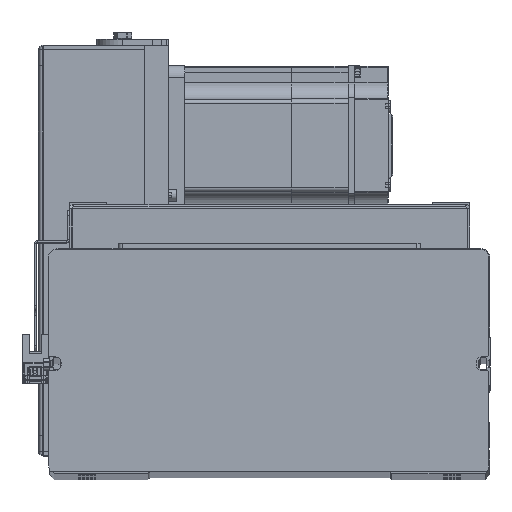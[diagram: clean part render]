
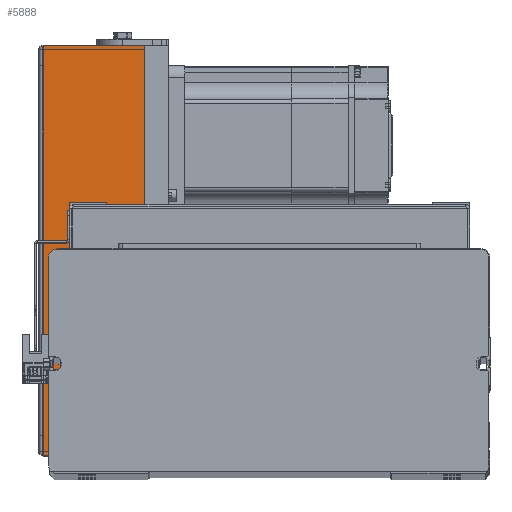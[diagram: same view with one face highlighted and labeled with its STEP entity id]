
A CAD part, top view. The second image highlights one B-rep face of the part: STEP entity #5888.
In plain terms, the highlighted planar face has unit normal (0, 0, 1) as drawn and (0, 1, 0) by its records, which use the part's own axes.
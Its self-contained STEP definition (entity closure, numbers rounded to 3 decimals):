
#2610 = LINE ( 'NONE', #44374, #12027 ) ;
#3320 = VERTEX_POINT ( 'NONE', #23256 ) ;
#3876 = VECTOR ( 'NONE', #34560, 1000. ) ;
#5888 = ADVANCED_FACE ( 'NONE', ( #15059 ), #46106, .F. ) ;
#7665 = VERTEX_POINT ( 'NONE', #37101 ) ;
#9697 = ORIENTED_EDGE ( 'NONE', *, *, #16262, .T. ) ;
#11574 = EDGE_LOOP ( 'NONE', ( #12174, #9697, #36072, #14818 ) ) ;
#12027 = VECTOR ( 'NONE', #17636, 1000. ) ;
#12174 = ORIENTED_EDGE ( 'NONE', *, *, #36710, .F. ) ;
#12524 = AXIS2_PLACEMENT_3D ( 'NONE', #26770, #42301, #22948 ) ;
#14818 = ORIENTED_EDGE ( 'NONE', *, *, #47043, .F. ) ;
#15059 = FACE_OUTER_BOUND ( 'NONE', #11574, .T. ) ;
#16262 = EDGE_CURVE ( 'NONE', #3320, #7665, #18548, .T. ) ;
#16343 = LINE ( 'NONE', #24733, #24419 ) ;
#17636 = DIRECTION ( 'NONE',  ( 0., 0., -1. ) ) ;
#18548 = LINE ( 'NONE', #18805, #3876 ) ;
#18805 = CARTESIAN_POINT ( 'NONE',  ( 102.5, 54., 62.7 ) ) ;
#22948 = DIRECTION ( 'NONE',  ( 0., 0., 1. ) ) ;
#23204 = CARTESIAN_POINT ( 'NONE',  ( -102.5, 54., 12. ) ) ;
#23256 = CARTESIAN_POINT ( 'NONE',  ( 102.5, 54., 62.7 ) ) ;
#23530 = CARTESIAN_POINT ( 'NONE',  ( -102.5, 54., 62.7 ) ) ;
#24419 = VECTOR ( 'NONE', #47380, 1000. ) ;
#24733 = CARTESIAN_POINT ( 'NONE',  ( 0., 54., 12. ) ) ;
#26770 = CARTESIAN_POINT ( 'NONE',  ( 0., 54., 63. ) ) ;
#26995 = EDGE_CURVE ( 'NONE', #7665, #44902, #16343, .T. ) ;
#33188 = CARTESIAN_POINT ( 'NONE',  ( -102.5, 54., 62.7 ) ) ;
#33540 = VERTEX_POINT ( 'NONE', #23530 ) ;
#34560 = DIRECTION ( 'NONE',  ( 0., 0., -1. ) ) ;
#36072 = ORIENTED_EDGE ( 'NONE', *, *, #26995, .T. ) ;
#36710 = EDGE_CURVE ( 'NONE', #3320, #33540, #45417, .T. ) ;
#37101 = CARTESIAN_POINT ( 'NONE',  ( 102.5, 54., 12. ) ) ;
#42301 = DIRECTION ( 'NONE',  ( 0., -1., 0. ) ) ;
#44374 = CARTESIAN_POINT ( 'NONE',  ( -102.5, 54., 62.7 ) ) ;
#44902 = VERTEX_POINT ( 'NONE', #23204 ) ;
#45417 = LINE ( 'NONE', #33188, #49106 ) ;
#46106 = PLANE ( 'NONE',  #12524 ) ;
#47043 = EDGE_CURVE ( 'NONE', #33540, #44902, #2610, .T. ) ;
#47380 = DIRECTION ( 'NONE',  ( -1., 0., 0. ) ) ;
#49106 = VECTOR ( 'NONE', #49737, 1000. ) ;
#49737 = DIRECTION ( 'NONE',  ( -1., 0., 0. ) ) ;
